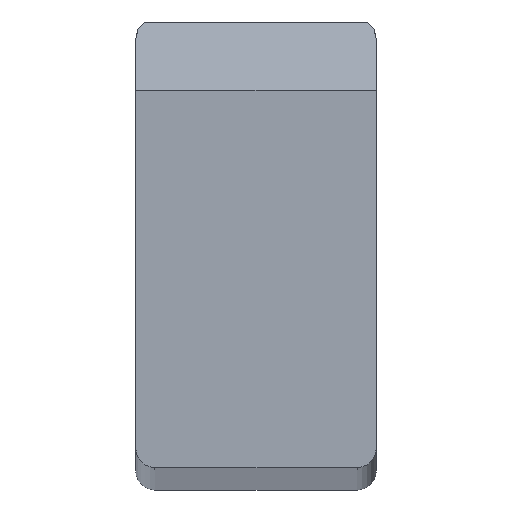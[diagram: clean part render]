
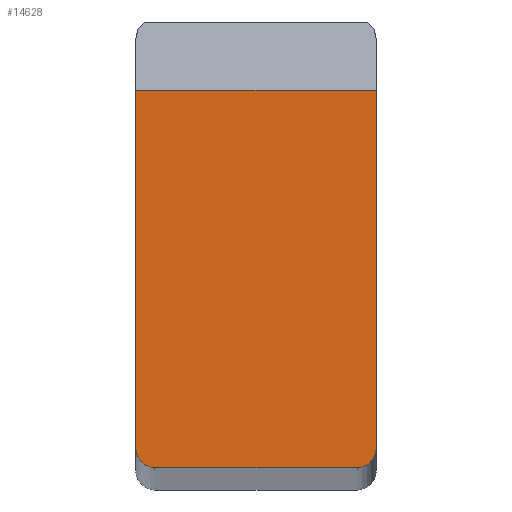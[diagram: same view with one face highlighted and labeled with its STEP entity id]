
A CAD part, top view. The second image highlights one B-rep face of the part: STEP entity #14628.
In plain terms, the highlighted planar face has unit normal (0, 0, 1).
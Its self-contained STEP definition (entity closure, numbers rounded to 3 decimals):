
#762 = PLANE ( 'NONE',  #1555 ) ;
#909 = VERTEX_POINT ( 'NONE', #14909 ) ;
#1555 = AXIS2_PLACEMENT_3D ( 'NONE', #23462, #15993, #4586 ) ;
#1733 = CARTESIAN_POINT ( 'NONE',  ( -7.5, 1.2, 800. ) ) ;
#2120 = CARTESIAN_POINT ( 'NONE',  ( -6.3, 1.2, 800. ) ) ;
#2472 = LINE ( 'NONE', #12927, #5715 ) ;
#2488 = ORIENTED_EDGE ( 'NONE', *, *, #22395, .T. ) ;
#3094 = VECTOR ( 'NONE', #7265, 1000. ) ;
#4026 = DIRECTION ( 'NONE',  ( -1., 0., 0. ) ) ;
#4368 = AXIS2_PLACEMENT_3D ( 'NONE', #2120, #15438, #4026 ) ;
#4586 = DIRECTION ( 'NONE',  ( -1., 0., 0. ) ) ;
#5368 = LINE ( 'NONE', #14457, #16118 ) ;
#5371 = CARTESIAN_POINT ( 'NONE',  ( -7.5, 0., 800. ) ) ;
#5388 = ORIENTED_EDGE ( 'NONE', *, *, #6098, .T. ) ;
#5715 = VECTOR ( 'NONE', #14867, 1000. ) ;
#6098 = EDGE_CURVE ( 'NONE', #909, #14347, #5368, .T. ) ;
#6485 = VERTEX_POINT ( 'NONE', #14121 ) ;
#6935 = ORIENTED_EDGE ( 'NONE', *, *, #19371, .T. ) ;
#7198 = DIRECTION ( 'NONE',  ( -1., 0., 0. ) ) ;
#7228 = CARTESIAN_POINT ( 'NONE',  ( 7.5, 23.55, 800. ) ) ;
#7265 = DIRECTION ( 'NONE',  ( 1., 0., 0. ) ) ;
#8001 = EDGE_CURVE ( 'NONE', #18140, #6485, #13223, .T. ) ;
#8005 = EDGE_LOOP ( 'NONE', ( #5388, #18267, #2488, #6935, #21588, #9031 ) ) ;
#8759 = CARTESIAN_POINT ( 'NONE',  ( -7.5, 23.55, 800. ) ) ;
#8952 = VECTOR ( 'NONE', #7198, 1000. ) ;
#9021 = DIRECTION ( 'NONE',  ( 0., 0., 1. ) ) ;
#9031 = ORIENTED_EDGE ( 'NONE', *, *, #22331, .T. ) ;
#9527 = LINE ( 'NONE', #11024, #8952 ) ;
#9754 = EDGE_CURVE ( 'NONE', #14347, #19120, #9527, .T. ) ;
#11024 = CARTESIAN_POINT ( 'NONE',  ( -7.5, 23.55, 800. ) ) ;
#12927 = CARTESIAN_POINT ( 'NONE',  ( -7.5, 0., 800. ) ) ;
#13223 = LINE ( 'NONE', #5371, #3094 ) ;
#14121 = CARTESIAN_POINT ( 'NONE',  ( 6.3, 0., 800. ) ) ;
#14347 = VERTEX_POINT ( 'NONE', #7228 ) ;
#14457 = CARTESIAN_POINT ( 'NONE',  ( 7.5, 0., 800. ) ) ;
#14628 = ADVANCED_FACE ( 'NONE', ( #18186 ), #762, .F. ) ;
#14867 = DIRECTION ( 'NONE',  ( 0., -1., 0. ) ) ;
#14909 = CARTESIAN_POINT ( 'NONE',  ( 7.5, 1.2, 800. ) ) ;
#14929 = VERTEX_POINT ( 'NONE', #1733 ) ;
#15438 = DIRECTION ( 'NONE',  ( 0., 0., 1. ) ) ;
#15993 = DIRECTION ( 'NONE',  ( 0., 0., -1. ) ) ;
#16118 = VECTOR ( 'NONE', #16381, 1000. ) ;
#16381 = DIRECTION ( 'NONE',  ( 0., 1., 0. ) ) ;
#17068 = CIRCLE ( 'NONE', #23216, 1.2 ) ;
#17729 = CARTESIAN_POINT ( 'NONE',  ( -6.3, 0., 800. ) ) ;
#18118 = CIRCLE ( 'NONE', #4368, 1.2 ) ;
#18140 = VERTEX_POINT ( 'NONE', #17729 ) ;
#18186 = FACE_OUTER_BOUND ( 'NONE', #8005, .T. ) ;
#18267 = ORIENTED_EDGE ( 'NONE', *, *, #9754, .T. ) ;
#19120 = VERTEX_POINT ( 'NONE', #8759 ) ;
#19371 = EDGE_CURVE ( 'NONE', #14929, #18140, #18118, .T. ) ;
#20392 = CARTESIAN_POINT ( 'NONE',  ( 6.3, 1.2, 800. ) ) ;
#21588 = ORIENTED_EDGE ( 'NONE', *, *, #8001, .T. ) ;
#22277 = DIRECTION ( 'NONE',  ( -1., 0., 0. ) ) ;
#22331 = EDGE_CURVE ( 'NONE', #6485, #909, #17068, .T. ) ;
#22395 = EDGE_CURVE ( 'NONE', #19120, #14929, #2472, .T. ) ;
#23216 = AXIS2_PLACEMENT_3D ( 'NONE', #20392, #9021, #22277 ) ;
#23462 = CARTESIAN_POINT ( 'NONE',  ( -7.5, 0., 800. ) ) ;
